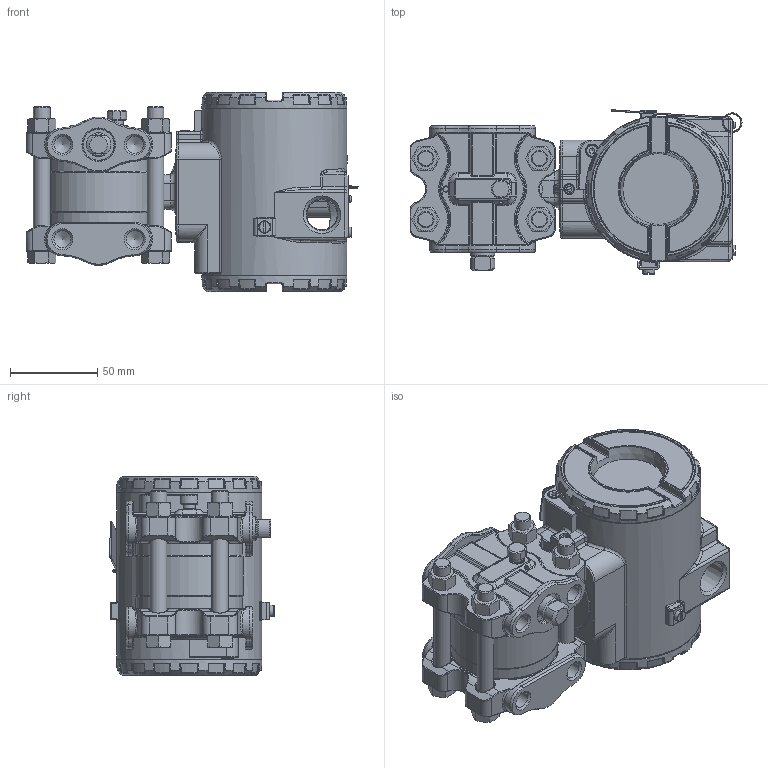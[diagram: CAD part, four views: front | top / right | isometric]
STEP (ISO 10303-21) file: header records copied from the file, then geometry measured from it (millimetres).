
FILE_DESCRIPTION(/* description */ (''),/* implementation_level */ '2;1');
FILE_NAME(/* name */ 'F:\Area\Desenvolvimento_2\Projects\Sensor\projetos\LD30X\montagens 3d - clientes\LD30XM0-3 1-4NPT purga acima.stp',/* time_stamp */ '2023-01-27T09:55:21-03:00',/* author */ ('inventor02'),/* organization */ (''),/* preprocessor_version */ 'ST-DEVELOPER v17',/* originating_system */ 'Autodesk Inventor 2019',/* authorisation */ '');
FILE_SCHEMA (('CONFIG_CONTROL_DESIGN'));
Length unit declared in the file: millimetre
Products named in the file (30): LD30XM 1-4NPT purga acima; manometrico standard fx0-3 purga acima; Flange manometrico standard; flange diferencial std purga; bujao 1-4NPT; Sangria; Paraf. 3-8 x 16 UNC; Porca 3-8 x 16 UNC; involucro fx0-3 apos a usinagem final; carcaça vazia com tampas e plaqueta; carcaça LD inox sem letras; Subconjunto plaqueta 300; Plaqueta transmissor; Parafuso da Plaqueta; Rebite da Plaqueta; 096-A-0169-03; 101-A-0502-01; Chapa aterramento externo; ISO 1207 - M4 x 8; DIN 915 - M6 x 10; ANSI B18.3.1M - M4x0,7 x 8; Subconjunto tampa com visor aluminio; tampa pintada; VIDRO DO VISOR; oring 41x1 vidro tampa; Trava do vidro da tampa com visor; trava do vidro VH256; Subconjunto tampa sem visor-aluminio; tampa cega 300 pintada p0; 00034775-0
Assembly tree (37 placements, depth 4):
  LD30XM 1-4NPT purga acima
    manometrico standard fx0-3 purga acima
      Flange manometrico standard
      flange diferencial std purga
      bujao 1-4NPT
      Sangria
      Paraf. 3-8 x 16 UNC  x4
      Porca 3-8 x 16 UNC  x4
      involucro fx0-3 apos a usinagem final
    carcaça vazia com tampas e plaqueta
      carcaça LD inox sem letras
      Subconjunto plaqueta 300
        Plaqueta transmissor
        Parafuso da Plaqueta
        Rebite da Plaqueta
        096-A-0169-03
        101-A-0502-01
      Chapa aterramento externo
      ISO 1207 - M4 x 8
      DIN 915 - M6 x 10
      ANSI B18.3.1M - M4x0,7 x 8  x2
      Subconjunto tampa com visor aluminio
        tampa pintada
        VIDRO DO VISOR
        oring 41x1 vidro tampa
        Trava do vidro da tampa com visor
        trava do vidro VH256
        00034775-0
      Subconjunto tampa sem visor-aluminio
        tampa cega 300 pintada p0
        00034775-0
Bounding box: 189.78 x 93.95 x 114 mm (x, y, z)
Volume: 568188.1 mm3; surface area: 226675 mm2
Topology: 32 solids, 32 shells, 2626 faces, 6301 edges, 3698 vertices
Faces by surface type: bspline 729, cylinder 609, plane 498, torus 448, cone 230, sphere 112
Full cylindrical faces by diameter (mm): 2 x3, 2.1 x2, 2.459 x5, 2.642 x1, 2.7 x1, 3 x3, 3.242 x4, 3.5 x4, 3.571 x1, 4 x4, 4.3 x1, 4.4 x1, 4.917 x1, 5.5 x3, 6 x2, 6.647 x1, 7 x5, 7.087 x2, 7.6 x2, 7.798 x4, 8 x1, 8.7 x2, 9.525 x4, 9.728 x8, 10.5 x8, 10.719 x2, 13.8 x1, 14 x1, 17.475 x2, 18.5 x2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
Entity records: 93555 total; most frequent: CARTESIAN_POINT 36316, ORIENTED_EDGE 12030, DIRECTION 11553, EDGE_CURVE 6015, AXIS2_PLACEMENT_3D 5089, VERTEX_POINT 3572, CIRCLE 2995, EDGE_LOOP 2637
